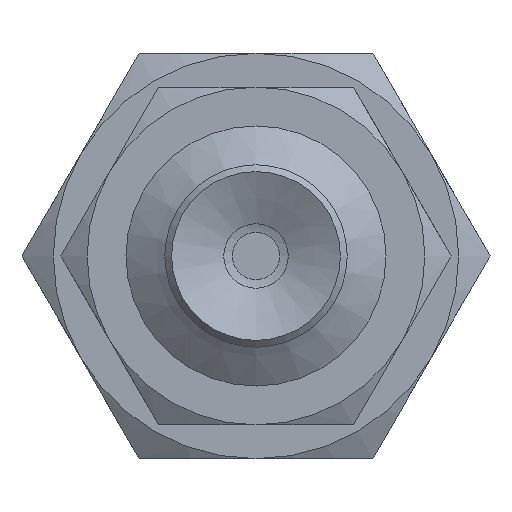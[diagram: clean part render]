
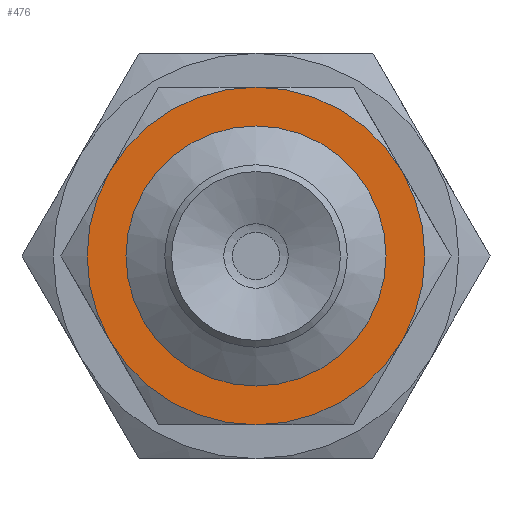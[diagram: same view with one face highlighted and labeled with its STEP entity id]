
A CAD part, front view. The second image highlights one B-rep face of the part: STEP entity #476.
In plain terms, the highlighted planar face has unit normal (0, -1, 0).
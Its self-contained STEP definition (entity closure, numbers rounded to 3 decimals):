
#476=ADVANCED_FACE('',(#700,#701),#702,.T.);
#700=FACE_BOUND('',#984,.T.);
#701=FACE_OUTER_BOUND('',#985,.T.);
#702=PLANE('',#986);
#984=EDGE_LOOP('',(#1663));
#985=EDGE_LOOP('',(#1664,#1665,#1666,#1667,#1668,#1669));
#986=AXIS2_PLACEMENT_3D('',#1670,#1671,#1672);
#1663=ORIENTED_EDGE('',*,*,#2023,.F.);
#1664=ORIENTED_EDGE('',*,*,#2049,.T.);
#1665=ORIENTED_EDGE('',*,*,#2050,.T.);
#1666=ORIENTED_EDGE('',*,*,#1971,.T.);
#1667=ORIENTED_EDGE('',*,*,#1978,.T.);
#1668=ORIENTED_EDGE('',*,*,#1980,.T.);
#1669=ORIENTED_EDGE('',*,*,#1993,.T.);
#1670=CARTESIAN_POINT('',(2.0,0.,0.0));
#1671=DIRECTION('',(0.0,-1.0,0.0));
#1672=DIRECTION('',(0.0,0.0,-1.0));
#1971=EDGE_CURVE('',#2234,#2245,#2247,.T.);
#1978=EDGE_CURVE('',#2245,#2257,#2259,.T.);
#1980=EDGE_CURVE('',#2257,#2260,#2263,.T.);
#1993=EDGE_CURVE('',#2260,#2278,#2284,.T.);
#2023=EDGE_CURVE('',#2336,#2336,#2337,.T.);
#2049=EDGE_CURVE('',#2278,#2379,#2381,.T.);
#2050=EDGE_CURVE('',#2379,#2234,#2382,.T.);
#2234=VERTEX_POINT('',#2870);
#2245=VERTEX_POINT('',#2891);
#2247=CIRCLE('',#2895,5.0);
#2257=VERTEX_POINT('',#2912);
#2259=CIRCLE('',#2916,5.0);
#2260=VERTEX_POINT('',#2917);
#2263=CIRCLE('',#2922,5.0);
#2278=VERTEX_POINT('',#2949);
#2284=CIRCLE('',#2962,5.0);
#2336=VERTEX_POINT('',#3093);
#2337=CIRCLE('',#3094,2.0);
#2379=VERTEX_POINT('',#3146);
#2381=CIRCLE('',#3150,5.0);
#2382=CIRCLE('',#3151,5.0);
#2870=CARTESIAN_POINT('',(4.33,0.,2.5));
#2891=CARTESIAN_POINT('',(0.0,0.,5.0));
#2895=AXIS2_PLACEMENT_3D('',#3332,#3333,#3334);
#2912=CARTESIAN_POINT('',(-4.33,0.,2.5));
#2916=AXIS2_PLACEMENT_3D('',#3339,#3340,#3341);
#2917=CARTESIAN_POINT('',(-4.33,0.,-2.5));
#2922=AXIS2_PLACEMENT_3D('',#3342,#3343,#3344);
#2949=CARTESIAN_POINT('',(0.0,0.,-5.0));
#2962=AXIS2_PLACEMENT_3D('',#3351,#3352,#3353);
#3093=CARTESIAN_POINT('',(0.0,0.,-2.0));
#3094=AXIS2_PLACEMENT_3D('',#3387,#3388,#3389);
#3146=CARTESIAN_POINT('',(4.33,0.,-2.5));
#3150=AXIS2_PLACEMENT_3D('',#3442,#3443,#3444);
#3151=AXIS2_PLACEMENT_3D('',#3445,#3446,#3447);
#3332=CARTESIAN_POINT('',(0.0,0.,0.0));
#3333=DIRECTION('',(0.0,-1.0,0.0));
#3334=DIRECTION('',(0.0,0.0,-1.0));
#3339=CARTESIAN_POINT('',(0.0,0.,0.0));
#3340=DIRECTION('',(0.0,-1.0,0.0));
#3341=DIRECTION('',(0.0,0.0,-1.0));
#3342=CARTESIAN_POINT('',(0.0,0.,0.0));
#3343=DIRECTION('',(0.0,-1.0,0.0));
#3344=DIRECTION('',(0.0,0.0,-1.0));
#3351=CARTESIAN_POINT('',(0.0,0.,0.0));
#3352=DIRECTION('',(0.0,-1.0,0.0));
#3353=DIRECTION('',(0.0,0.0,-1.0));
#3387=CARTESIAN_POINT('',(0.0,0.,0.0));
#3388=DIRECTION('',(0.0,-1.0,0.0));
#3389=DIRECTION('',(0.0,0.0,-1.0));
#3442=CARTESIAN_POINT('',(0.0,0.,0.0));
#3443=DIRECTION('',(0.0,-1.0,0.0));
#3444=DIRECTION('',(0.0,0.0,-1.0));
#3445=CARTESIAN_POINT('',(0.0,0.,0.0));
#3446=DIRECTION('',(0.0,-1.0,0.0));
#3447=DIRECTION('',(0.0,0.0,-1.0));
